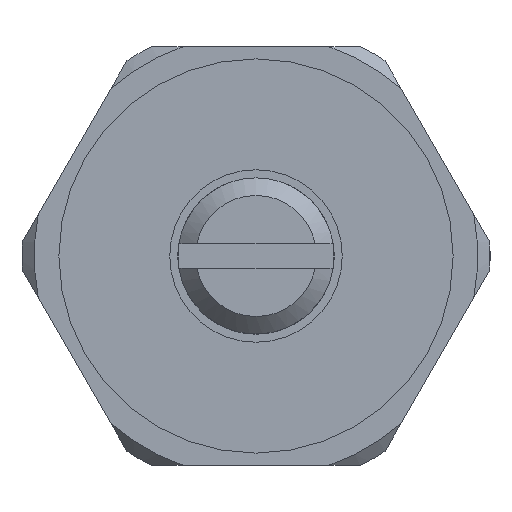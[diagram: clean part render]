
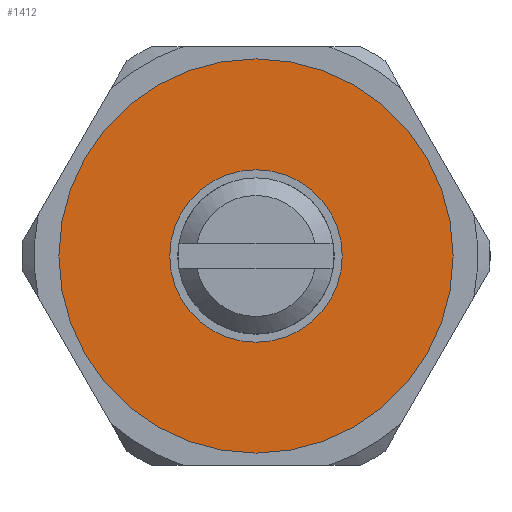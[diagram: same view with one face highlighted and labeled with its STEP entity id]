
A CAD part, left-side view. The second image highlights one B-rep face of the part: STEP entity #1412.
In plain terms, the highlighted planar face has unit normal (-1, 0, 0).
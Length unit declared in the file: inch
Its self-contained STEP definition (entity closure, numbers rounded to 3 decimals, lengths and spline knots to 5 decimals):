
#73=FACE_BOUND('',#249,.T.);
#98=PLANE('',#1580);
#165=FACE_OUTER_BOUND('',#248,.T.);
#248=EDGE_LOOP('',(#1119,#1120));
#249=EDGE_LOOP('',(#1121,#1122));
#442=CIRCLE('',#1508,0.1378);
#443=CIRCLE('',#1509,0.1378);
#478=CIRCLE('',#1578,0.31496);
#479=CIRCLE('',#1579,0.31496);
#546=VERTEX_POINT('',#2160);
#547=VERTEX_POINT('',#2161);
#606=VERTEX_POINT('',#2395);
#607=VERTEX_POINT('',#2396);
#694=EDGE_CURVE('',#546,#547,#442,.T.);
#695=EDGE_CURVE('',#547,#546,#443,.T.);
#787=EDGE_CURVE('',#606,#607,#478,.T.);
#788=EDGE_CURVE('',#607,#606,#479,.T.);
#1119=ORIENTED_EDGE('',*,*,#787,.T.);
#1120=ORIENTED_EDGE('',*,*,#788,.T.);
#1121=ORIENTED_EDGE('',*,*,#694,.T.);
#1122=ORIENTED_EDGE('',*,*,#695,.T.);
#1412=ADVANCED_FACE('',(#165,#73),#98,.T.);
#1508=AXIS2_PLACEMENT_3D('',#2162,#1746,#1747);
#1509=AXIS2_PLACEMENT_3D('',#2163,#1748,#1749);
#1578=AXIS2_PLACEMENT_3D('',#2397,#1919,#1920);
#1579=AXIS2_PLACEMENT_3D('',#2398,#1921,#1922);
#1580=AXIS2_PLACEMENT_3D('',#2400,#1924,#1925);
#1746=DIRECTION('center_axis',(1.,0.,0.));
#1747=DIRECTION('ref_axis',(0.,0.,1.));
#1748=DIRECTION('center_axis',(1.,0.,0.));
#1749=DIRECTION('ref_axis',(0.,0.,1.));
#1919=DIRECTION('center_axis',(-1.,0.,0.));
#1920=DIRECTION('ref_axis',(0.,0.,1.));
#1921=DIRECTION('center_axis',(-1.,0.,0.));
#1922=DIRECTION('ref_axis',(0.,0.,1.));
#1924=DIRECTION('center_axis',(-1.,0.,0.));
#1925=DIRECTION('ref_axis',(0.,0.,1.));
#2160=CARTESIAN_POINT('',(-2.21862,-0.42833,0.56421));
#2161=CARTESIAN_POINT('',(-2.21862,-0.42833,0.28862));
#2162=CARTESIAN_POINT('Origin',(-2.21862,-0.42833,0.42641));
#2163=CARTESIAN_POINT('Origin',(-2.21862,-0.42833,0.42641));
#2395=CARTESIAN_POINT('',(-2.21862,-0.42833,0.74137));
#2396=CARTESIAN_POINT('',(-2.21862,-0.42833,0.11145));
#2397=CARTESIAN_POINT('Origin',(-2.21862,-0.42833,0.42641));
#2398=CARTESIAN_POINT('Origin',(-2.21862,-0.42833,0.42641));
#2400=CARTESIAN_POINT('Origin',(-2.21862,-0.42833,0.42641));
